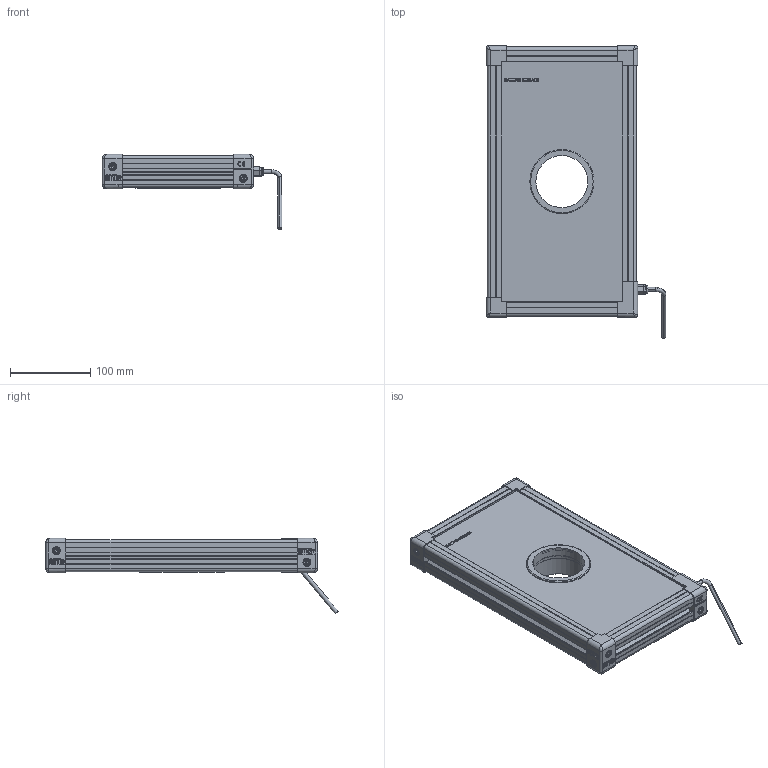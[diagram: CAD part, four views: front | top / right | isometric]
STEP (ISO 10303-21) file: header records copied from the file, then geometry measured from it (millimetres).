
FILE_DESCRIPTION (( 'STEP AP214' ), '1' );
FILE_NAME ('EFFI-FD-150-300-ZZZ-1M12.STEP', '2021-06-23T09:01:49', ( '' ), ( '' ), 'SwSTEP 2.0', 'SolidWorks 2021', '' );
FILE_SCHEMA (( 'AUTOMOTIVE_DESIGN' ));
Length unit declared in the file: millimetre
Products named in the file (13): 004408; 000629; cordon_Avec cable; Pièce13^EFFI-FD-XXX-YYY-ZZZ (1connecteur) Ø65; EFFI-FD-150-300-ZZZ-1M12; 004409; profile X_PERCE; grande joue; profile Y_PERCE; 000590; petite joue + vis; Assemblage Ø65; petite joue
Assembly tree (21 placements, depth 3):
  EFFI-FD-150-300-ZZZ-1M12
    profile X_PERCE  x2
    profile Y_PERCE  x2
    Pièce13^EFFI-FD-XXX-YYY-ZZZ (1connecteur) Ø65
    petite joue + vis  x3
      petite joue
      000629
    000629  x2
    grande joue
    Assemblage Ø65
      004408
      004409
      000590  x3
    cordon_Avec cable
Bounding box: 224.15 x 364.73 x 94.09 mm (x, y, z)
Volume: 2098961.5 mm3; surface area: 331937.8 mm2
Topology: 22 solids, 28 shells, 3845 faces, 10219 edges, 6706 vertices
Faces by surface type: plane 2372, cylinder 726, bspline 552, cone 152, torus 35, sphere 8
Entity records: 73011 total; most frequent: CARTESIAN_POINT 28463, ORIENTED_EDGE 9328, DIRECTION 7777, EDGE_CURVE 4668, VECTOR 3489, LINE 3489, VERTEX_POINT 3077, AXIS2_PLACEMENT_3D 2144
